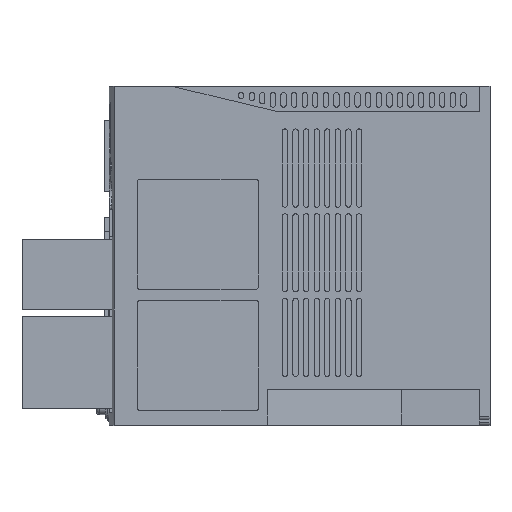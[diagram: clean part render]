
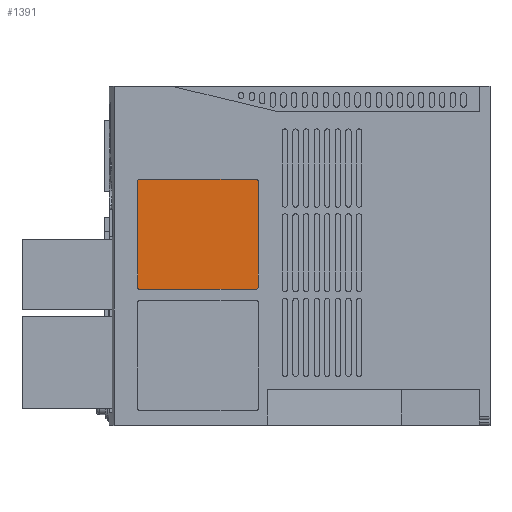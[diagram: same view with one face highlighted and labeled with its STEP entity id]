
A CAD part, top view. The second image highlights one B-rep face of the part: STEP entity #1391.
In plain terms, the highlighted planar face has unit normal (0, 0, 1).
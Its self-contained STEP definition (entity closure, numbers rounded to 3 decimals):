
#1391 = ADVANCED_FACE( '', ( #4255 ), #4256, .T. );
#4255 = FACE_OUTER_BOUND( '', #7159, .T. );
#4256 = PLANE( '', #7160 );
#7159 = EDGE_LOOP( '', ( #17455, #17456, #17457, #17458, #17459, #17460, #17461, #17462 ) );
#7160 = AXIS2_PLACEMENT_3D( '', #17463, #17464, #17465 );
#17455 = ORIENTED_EDGE( '', *, *, #20875, .T. );
#17456 = ORIENTED_EDGE( '', *, *, #20879, .T. );
#17457 = ORIENTED_EDGE( '', *, *, #20882, .T. );
#17458 = ORIENTED_EDGE( '', *, *, #20885, .T. );
#17459 = ORIENTED_EDGE( '', *, *, #20888, .T. );
#17460 = ORIENTED_EDGE( '', *, *, #20891, .T. );
#17461 = ORIENTED_EDGE( '', *, *, #20894, .T. );
#17462 = ORIENTED_EDGE( '', *, *, #20897, .T. );
#17463 = CARTESIAN_POINT( '', ( 0., 0., 69.5 ) );
#17464 = DIRECTION( '', ( 0., 0., 1. ) );
#17465 = DIRECTION( '', ( 1., 0., 0. ) );
#20875 = EDGE_CURVE( '', #26242, #26243, #26244, .T. );
#20879 = EDGE_CURVE( '', #26243, #26250, #26251, .T. );
#20882 = EDGE_CURVE( '', #26250, #26255, #26256, .T. );
#20885 = EDGE_CURVE( '', #26255, #26260, #26261, .T. );
#20888 = EDGE_CURVE( '', #26260, #26265, #26266, .T. );
#20891 = EDGE_CURVE( '', #26265, #26270, #26271, .T. );
#20894 = EDGE_CURVE( '', #26270, #26275, #26276, .T. );
#20897 = EDGE_CURVE( '', #26275, #26242, #26280, .T. );
#26242 = VERTEX_POINT( '', #34768 );
#26243 = VERTEX_POINT( '', #34769 );
#26244 = CIRCLE( '', #34770, 1. );
#26250 = VERTEX_POINT( '', #34778 );
#26251 = LINE( '', #34779, #34780 );
#26255 = VERTEX_POINT( '', #34786 );
#26256 = CIRCLE( '', #34787, 1. );
#26260 = VERTEX_POINT( '', #34792 );
#26261 = LINE( '', #34793, #34794 );
#26265 = VERTEX_POINT( '', #34800 );
#26266 = CIRCLE( '', #34801, 1. );
#26270 = VERTEX_POINT( '', #34806 );
#26271 = LINE( '', #34807, #34808 );
#26275 = VERTEX_POINT( '', #34814 );
#26276 = CIRCLE( '', #34815, 1. );
#26280 = LINE( '', #34820, #34821 );
#34768 = CARTESIAN_POINT( '', ( 13.569, 65.25, 69.5 ) );
#34769 = CARTESIAN_POINT( '', ( 14.569, 64.25, 69.5 ) );
#34770 = AXIS2_PLACEMENT_3D( '', #39885, #39886, #39887 );
#34778 = CARTESIAN_POINT( '', ( 69.569, 64.25, 69.5 ) );
#34779 = CARTESIAN_POINT( '', ( 14.569, 64.25, 69.5 ) );
#34780 = VECTOR( '', #39893, 1. );
#34786 = CARTESIAN_POINT( '', ( 70.569, 65.25, 69.5 ) );
#34787 = AXIS2_PLACEMENT_3D( '', #39896, #39897, #39898 );
#34792 = CARTESIAN_POINT( '', ( 70.569, 115.25, 69.5 ) );
#34793 = CARTESIAN_POINT( '', ( 70.569, 65.25, 69.5 ) );
#34794 = VECTOR( '', #39903, 1. );
#34800 = CARTESIAN_POINT( '', ( 69.569, 116.25, 69.5 ) );
#34801 = AXIS2_PLACEMENT_3D( '', #39906, #39907, #39908 );
#34806 = CARTESIAN_POINT( '', ( 14.569, 116.25, 69.5 ) );
#34807 = CARTESIAN_POINT( '', ( 69.569, 116.25, 69.5 ) );
#34808 = VECTOR( '', #39913, 1. );
#34814 = CARTESIAN_POINT( '', ( 13.569, 115.25, 69.5 ) );
#34815 = AXIS2_PLACEMENT_3D( '', #39916, #39917, #39918 );
#34820 = CARTESIAN_POINT( '', ( 13.569, 115.25, 69.5 ) );
#34821 = VECTOR( '', #39923, 1. );
#39885 = CARTESIAN_POINT( '', ( 14.569, 65.25, 69.5 ) );
#39886 = DIRECTION( '', ( 0., 0., 1. ) );
#39887 = DIRECTION( '', ( -1., 0., 0. ) );
#39893 = DIRECTION( '', ( 1., 0., 0. ) );
#39896 = CARTESIAN_POINT( '', ( 69.569, 65.25, 69.5 ) );
#39897 = DIRECTION( '', ( 0., 0., 1. ) );
#39898 = DIRECTION( '', ( 0., -1., 0. ) );
#39903 = DIRECTION( '', ( 0., 1., 0. ) );
#39906 = CARTESIAN_POINT( '', ( 69.569, 115.25, 69.5 ) );
#39907 = DIRECTION( '', ( 0., 0., 1. ) );
#39908 = DIRECTION( '', ( 1., 0., 0. ) );
#39913 = DIRECTION( '', ( -1., 0., 0. ) );
#39916 = CARTESIAN_POINT( '', ( 14.569, 115.25, 69.5 ) );
#39917 = DIRECTION( '', ( 0., 0., 1. ) );
#39918 = DIRECTION( '', ( 0., 1., 0. ) );
#39923 = DIRECTION( '', ( 0., -1., 0. ) );
